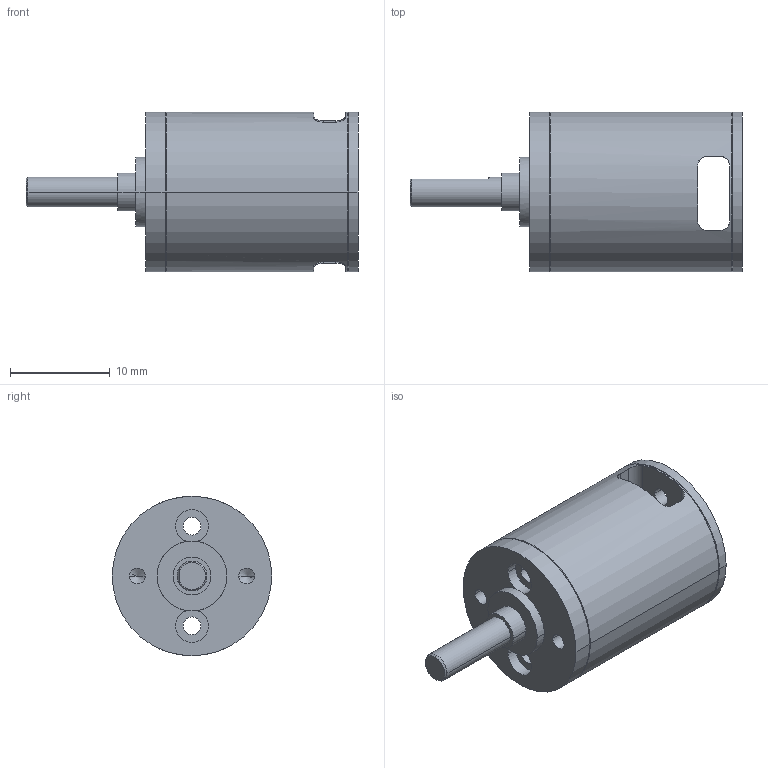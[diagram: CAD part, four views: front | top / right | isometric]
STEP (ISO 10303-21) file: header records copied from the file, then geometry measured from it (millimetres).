
FILE_DESCRIPTION((''),'2;1');
FILE_NAME('GS16VZ','2016-10-06T',('mmagpetk'),(''),'CREO PARAMETRIC BY PTC INC, 2016050','CREO PARAMETRIC BY PTC INC, 2016050','');
FILE_SCHEMA(('CONFIG_CONTROL_DESIGN'));
Length unit declared in the file: millimetre
Products named in the file (1): GS16VZ
Bounding box: 33.3 x 16 x 16 mm (x, y, z)
Volume: 3571 mm3; surface area: 2329.8 mm2
Topology: 1 solids, 1 shells, 65 faces, 157 edges, 96 vertices
Faces by surface type: cylinder 36, plane 16, cone 13
Entity records: 2524 total; most frequent: CARTESIAN_POINT 380, DIRECTION 352, ORIENTED_EDGE 306, PRESENTATION_STYLE_ASSIGNMENT 154, STYLED_ITEM 154, CURVE_STYLE 153, EDGE_CURVE 153, AXIS2_PLACEMENT_3D 146
